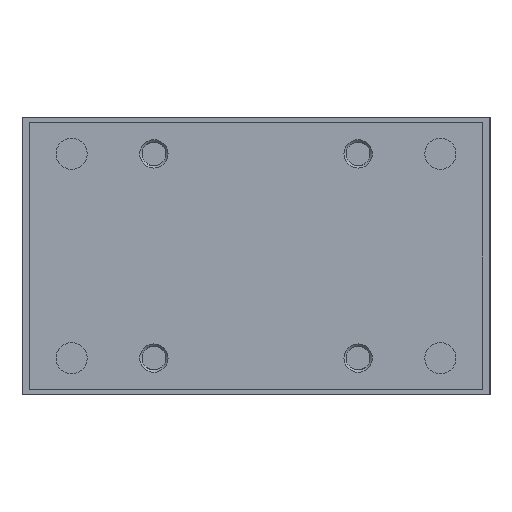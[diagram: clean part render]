
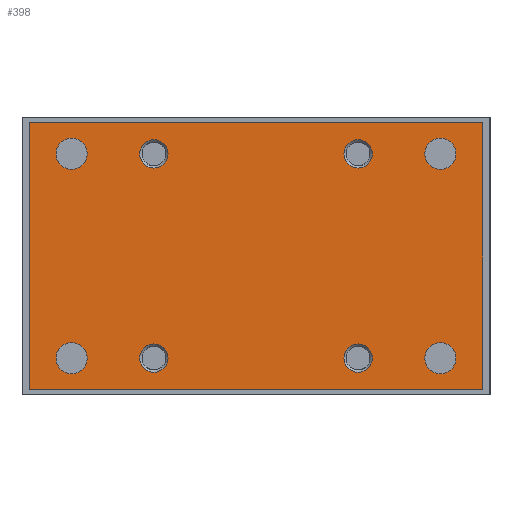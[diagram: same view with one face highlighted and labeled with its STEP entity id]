
A CAD part, left-side view. The second image highlights one B-rep face of the part: STEP entity #398.
In plain terms, the highlighted planar face has unit normal (-1, 0, 0).
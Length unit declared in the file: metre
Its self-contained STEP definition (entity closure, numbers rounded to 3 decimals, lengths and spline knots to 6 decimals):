
#398 = ADVANCED_FACE( '', ( #1018, #1019, #1020, #1021, #1022, #1023, #1024, #1025, #1026 ), #1027, .F. );
#1018 = FACE_BOUND( '', #1976, .T. );
#1019 = FACE_BOUND( '', #1977, .T. );
#1020 = FACE_BOUND( '', #1978, .T. );
#1021 = FACE_BOUND( '', #1979, .T. );
#1022 = FACE_BOUND( '', #1980, .T. );
#1023 = FACE_BOUND( '', #1981, .T. );
#1024 = FACE_BOUND( '', #1982, .T. );
#1025 = FACE_BOUND( '', #1983, .T. );
#1026 = FACE_OUTER_BOUND( '', #1984, .T. );
#1027 = PLANE( '', #1985 );
#1976 = EDGE_LOOP( '', ( #3114 ) );
#1977 = EDGE_LOOP( '', ( #3115 ) );
#1978 = EDGE_LOOP( '', ( #3116 ) );
#1979 = EDGE_LOOP( '', ( #3117 ) );
#1980 = EDGE_LOOP( '', ( #3118 ) );
#1981 = EDGE_LOOP( '', ( #3119 ) );
#1982 = EDGE_LOOP( '', ( #3120 ) );
#1983 = EDGE_LOOP( '', ( #3121 ) );
#1984 = EDGE_LOOP( '', ( #3122, #3123, #3124, #3125 ) );
#1985 = AXIS2_PLACEMENT_3D( '', #3126, #3127, #3128 );
#3114 = ORIENTED_EDGE( '', *, *, #4702, .T. );
#3115 = ORIENTED_EDGE( '', *, *, #4703, .T. );
#3116 = ORIENTED_EDGE( '', *, *, #4704, .T. );
#3117 = ORIENTED_EDGE( '', *, *, #4705, .T. );
#3118 = ORIENTED_EDGE( '', *, *, #4706, .T. );
#3119 = ORIENTED_EDGE( '', *, *, #4499, .F. );
#3120 = ORIENTED_EDGE( '', *, *, #4707, .F. );
#3121 = ORIENTED_EDGE( '', *, *, #4708, .T. );
#3122 = ORIENTED_EDGE( '', *, *, #4709, .T. );
#3123 = ORIENTED_EDGE( '', *, *, #4710, .T. );
#3124 = ORIENTED_EDGE( '', *, *, #4495, .T. );
#3125 = ORIENTED_EDGE( '', *, *, #4711, .T. );
#3126 = CARTESIAN_POINT( '', ( -0.107, -0.08, -0.096 ) );
#3127 = DIRECTION( '', ( 1., 0., 0. ) );
#3128 = DIRECTION( '', ( 0., 0., -1. ) );
#4495 = EDGE_CURVE( '', #5164, #5162, #5165, .T. );
#4499 = EDGE_CURVE( '', #5170, #5170, #5171, .T. );
#4702 = EDGE_CURVE( '', #5511, #5511, #5512, .T. );
#4703 = EDGE_CURVE( '', #5513, #5513, #5514, .T. );
#4704 = EDGE_CURVE( '', #5515, #5515, #5516, .T. );
#4705 = EDGE_CURVE( '', #5517, #5517, #5518, .T. );
#4706 = EDGE_CURVE( '', #5519, #5519, #5520, .T. );
#4707 = EDGE_CURVE( '', #5521, #5521, #5522, .T. );
#4708 = EDGE_CURVE( '', #5523, #5523, #5524, .T. );
#4709 = EDGE_CURVE( '', #5525, #5526, #5527, .T. );
#4710 = EDGE_CURVE( '', #5526, #5164, #5528, .T. );
#4711 = EDGE_CURVE( '', #5162, #5525, #5529, .T. );
#5162 = VERTEX_POINT( '', #6151 );
#5164 = VERTEX_POINT( '', #6154 );
#5165 = LINE( '', #6155, #6156 );
#5170 = VERTEX_POINT( '', #6162 );
#5171 = CIRCLE( '', #6163, 0.005 );
#5511 = VERTEX_POINT( '', #6696 );
#5512 = CIRCLE( '', #6697, 0.0055 );
#5513 = VERTEX_POINT( '', #6698 );
#5514 = CIRCLE( '', #6699, 0.0055 );
#5515 = VERTEX_POINT( '', #6700 );
#5516 = CIRCLE( '', #6701, 0.0055 );
#5517 = VERTEX_POINT( '', #6702 );
#5518 = CIRCLE( '', #6703, 0.0055 );
#5519 = VERTEX_POINT( '', #6704 );
#5520 = CIRCLE( '', #6705, 0.005 );
#5521 = VERTEX_POINT( '', #6706 );
#5522 = CIRCLE( '', #6707, 0.005 );
#5523 = VERTEX_POINT( '', #6708 );
#5524 = CIRCLE( '', #6709, 0.005 );
#5525 = VERTEX_POINT( '', #6710 );
#5526 = VERTEX_POINT( '', #6711 );
#5527 = LINE( '', #6712, #6713 );
#5528 = LINE( '', #6714, #6715 );
#5529 = LINE( '', #6716, #6717 );
#6151 = CARTESIAN_POINT( '', ( -0.107, 0.08, -0.096 ) );
#6154 = CARTESIAN_POINT( '', ( -0.107, 0.08, -0.002 ) );
#6155 = CARTESIAN_POINT( '', ( -0.107, 0.08, -0.002 ) );
#6156 = VECTOR( '', #7527, 1. );
#6162 = CARTESIAN_POINT( '', ( -0.107, 0.036, -0.09 ) );
#6163 = AXIS2_PLACEMENT_3D( '', #7532, #7533, #7534 );
#6696 = CARTESIAN_POINT( '', ( -0.107, -0.0595, -0.085 ) );
#6697 = AXIS2_PLACEMENT_3D( '', #7836, #7837, #7838 );
#6698 = CARTESIAN_POINT( '', ( -0.107, 0.0705, -0.085 ) );
#6699 = AXIS2_PLACEMENT_3D( '', #7839, #7840, #7841 );
#6700 = CARTESIAN_POINT( '', ( -0.107, -0.0595, -0.013 ) );
#6701 = AXIS2_PLACEMENT_3D( '', #7842, #7843, #7844 );
#6702 = CARTESIAN_POINT( '', ( -0.107, 0.0705, -0.013 ) );
#6703 = AXIS2_PLACEMENT_3D( '', #7845, #7846, #7847 );
#6704 = CARTESIAN_POINT( '', ( -0.107, -0.036, -0.09 ) );
#6705 = AXIS2_PLACEMENT_3D( '', #7848, #7849, #7850 );
#6706 = CARTESIAN_POINT( '', ( -0.107, -0.036, -0.008 ) );
#6707 = AXIS2_PLACEMENT_3D( '', #7851, #7852, #7853 );
#6708 = CARTESIAN_POINT( '', ( -0.107, 0.036, -0.008 ) );
#6709 = AXIS2_PLACEMENT_3D( '', #7854, #7855, #7856 );
#6710 = CARTESIAN_POINT( '', ( -0.107, -0.08, -0.096 ) );
#6711 = CARTESIAN_POINT( '', ( -0.107, -0.08, -0.002 ) );
#6712 = CARTESIAN_POINT( '', ( -0.107, -0.08, -0.096 ) );
#6713 = VECTOR( '', #7857, 1. );
#6714 = CARTESIAN_POINT( '', ( -0.107, -0.08, -0.002 ) );
#6715 = VECTOR( '', #7858, 1. );
#6716 = CARTESIAN_POINT( '', ( -0.107, 0.08, -0.096 ) );
#6717 = VECTOR( '', #7859, 1. );
#7527 = DIRECTION( '', ( 0., 0., -1. ) );
#7532 = CARTESIAN_POINT( '', ( -0.107, 0.036, -0.085 ) );
#7533 = DIRECTION( '', ( -1., 0., 0. ) );
#7534 = DIRECTION( '', ( 0., 0., -1. ) );
#7836 = CARTESIAN_POINT( '', ( -0.107, -0.065, -0.085 ) );
#7837 = DIRECTION( '', ( 1., 0., 0. ) );
#7838 = DIRECTION( '', ( 0., 1., 0. ) );
#7839 = CARTESIAN_POINT( '', ( -0.107, 0.065, -0.085 ) );
#7840 = DIRECTION( '', ( 1., 0., 0. ) );
#7841 = DIRECTION( '', ( 0., 1., 0. ) );
#7842 = CARTESIAN_POINT( '', ( -0.107, -0.065, -0.013 ) );
#7843 = DIRECTION( '', ( 1., 0., 0. ) );
#7844 = DIRECTION( '', ( 0., 1., 0. ) );
#7845 = CARTESIAN_POINT( '', ( -0.107, 0.065, -0.013 ) );
#7846 = DIRECTION( '', ( 1., 0., 0. ) );
#7847 = DIRECTION( '', ( 0., 1., 0. ) );
#7848 = CARTESIAN_POINT( '', ( -0.107, -0.036, -0.085 ) );
#7849 = DIRECTION( '', ( 1., 0., 0. ) );
#7850 = DIRECTION( '', ( 0., 0., -1. ) );
#7851 = CARTESIAN_POINT( '', ( -0.107, -0.036, -0.013 ) );
#7852 = DIRECTION( '', ( -1., 0., 0. ) );
#7853 = DIRECTION( '', ( 0., 0., 1. ) );
#7854 = CARTESIAN_POINT( '', ( -0.107, 0.036, -0.013 ) );
#7855 = DIRECTION( '', ( 1., 0., 0. ) );
#7856 = DIRECTION( '', ( 0., 0., 1. ) );
#7857 = DIRECTION( '', ( 0., 0., 1. ) );
#7858 = DIRECTION( '', ( 0., 1., 0. ) );
#7859 = DIRECTION( '', ( 0., -1., 0. ) );
